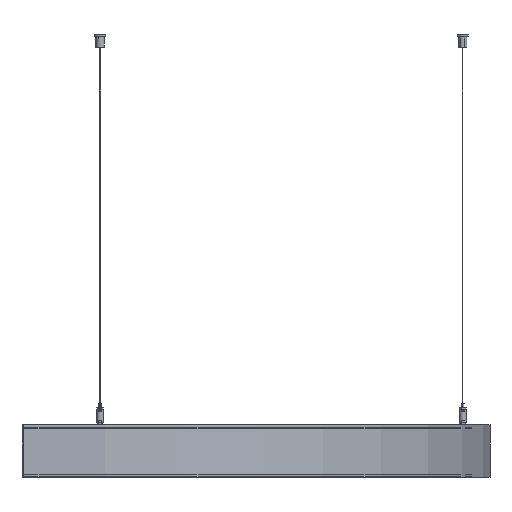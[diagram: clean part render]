
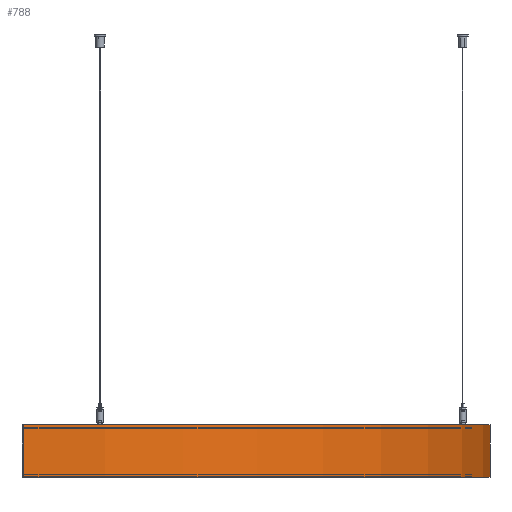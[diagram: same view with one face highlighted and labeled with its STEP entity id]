
A CAD part, front view. The second image highlights one B-rep face of the part: STEP entity #788.
In plain terms, the highlighted cylindrical face has radius 625 mm (diameter 1250 mm), a partial arc.
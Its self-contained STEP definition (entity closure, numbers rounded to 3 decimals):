
#788=ADVANCED_FACE('',(#899),#901,.T.);
#899=FACE_BOUND('',#900,.T.);
#900=EDGE_LOOP('',(#1493,#1494,#1495,#1496));
#901=CYLINDRICAL_SURFACE('',#902,625.);
#902=AXIS2_PLACEMENT_3D('',#903,#904,#905);
#903=CARTESIAN_POINT('',(0.,0.,0.));
#904=DIRECTION('',(0.,0.,1.));
#905=DIRECTION('',(0.,-1.,0.));
#1493=ORIENTED_EDGE('',*,*,#1768,.T.);
#1494=ORIENTED_EDGE('',*,*,#1769,.T.);
#1495=ORIENTED_EDGE('',*,*,#1759,.F.);
#1496=ORIENTED_EDGE('',*,*,#1767,.F.);
#1759=EDGE_CURVE('',#1899,#1901,#1902,.T.);
#1767=EDGE_CURVE('',#1913,#1899,#1915,.T.);
#1768=EDGE_CURVE('',#1913,#1916,#1917,.T.);
#1769=EDGE_CURVE('',#1916,#1901,#1918,.T.);
#1899=VERTEX_POINT('',#2144);
#1901=VERTEX_POINT('',#2148);
#1902=CIRCLE('',#2149,625.);
#1913=VERTEX_POINT('',#2176);
#1915=LINE('',#2180,#2181);
#1916=VERTEX_POINT('',#2183);
#1917=CIRCLE('',#2184,625.);
#1918=LINE('',#2188,#2189);
#2144=CARTESIAN_POINT('',(0.,-625.,70.));
#2148=CARTESIAN_POINT('',(0.,625.,70.));
#2149=AXIS2_PLACEMENT_3D('',#2150,#2151,#2152);
#2150=CARTESIAN_POINT('',(0.,0.,70.));
#2151=DIRECTION('',(0.,0.,1.));
#2152=DIRECTION('',(0.,-1.,0.));
#2176=CARTESIAN_POINT('',(0.,-625.,0.));
#2180=CARTESIAN_POINT('',(0.,-625.,0.));
#2181=VECTOR('',#2182,1.);
#2182=DIRECTION('',(0.,0.,1.));
#2183=CARTESIAN_POINT('',(0.,625.,0.));
#2184=AXIS2_PLACEMENT_3D('',#2185,#2186,#2187);
#2185=CARTESIAN_POINT('',(0.,0.,0.));
#2186=DIRECTION('',(0.,0.,1.));
#2187=DIRECTION('',(0.,-1.,0.));
#2188=CARTESIAN_POINT('',(0.,625.,0.));
#2189=VECTOR('',#2190,1.);
#2190=DIRECTION('',(0.,0.,1.));
